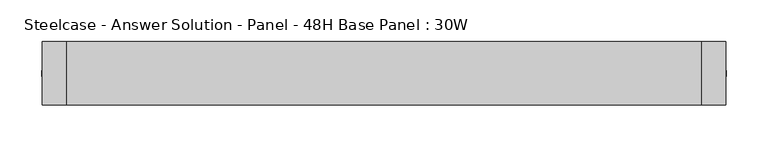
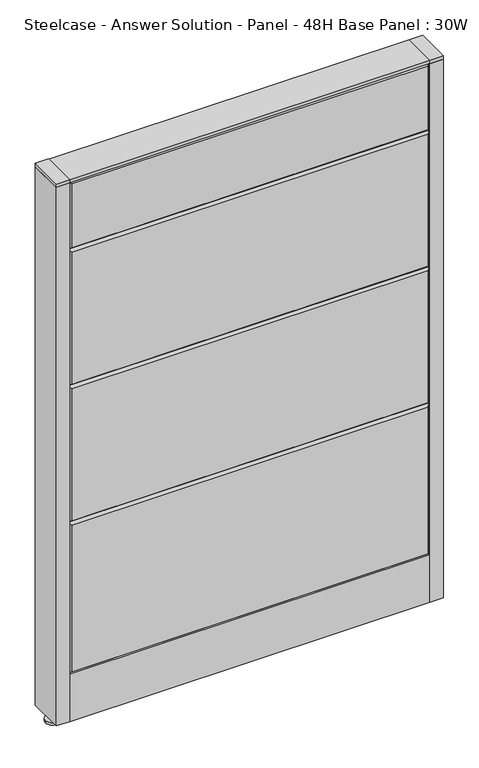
"""IFC4 building model written with IfcOpenShell, lengths in millimetres: furniture geometry, Steelcase - Answer Solution - Panel - 48H Base Panel : 30W."""

from ifc_helpers import new_model, si_unit, point, frame, frame_2d, origin, place, context, project, spatial, polyline, circle_curve, trimmed, segment, composite_curve, outline, extrude, faceted_brep, source, transform, mapped, element, save


def steelcase_answer_solution_panel_48h_base_panel_30w_5737a15c(model_context):
    return source(origin(), model_context, "Body", "SolidModel", [
        extrude(outline(composite_curve([segment(trimmed(circle_curve(frame_2d((395.224, 0.0320214)), 5.08), [point((400.304, 0.0320214))], [point((390.144, 0.0320214))], False, "CARTESIAN"), True, "CONTINUOUS"), segment(trimmed(circle_curve(frame_2d((395.224, 0.0320214)), 5.08), [point((390.144, 0.0320214))], [point((400.304, 0.0320214))], False, "CARTESIAN"), True, "CONTINUOUS")], self_intersect=False)), frame((0.0, 0.0, 5.0799671), z_axis=(0.0, 0.0, 1.0), x_axis=(1.0, 0.0, 0.0)), (0.0, 0.0, 1.0), 10.414),
        extrude(outline(composite_curve([segment(trimmed(circle_curve(frame_2d((395.224, 0.0320214)), 15.24), [point((410.464, 0.0320214))], [point((379.984, 0.0320214))], False, "CARTESIAN"), True, "CONTINUOUS"), segment(trimmed(circle_curve(frame_2d((395.224, 0.0320214)), 15.24), [point((379.984, 0.0320214))], [point((410.464, 0.0320214))], False, "CARTESIAN"), True, "CONTINUOUS")], self_intersect=False)), frame((0.0, 0.0, -3.29e-05), z_axis=(0.0, 0.0, 1.0), x_axis=(1.0, 0.0, 0.0)), (0.0, 0.0, 1.0), 5.08),
        extrude(outline(polyline([(409.575, 38.1320408), (409.575, -38.0679592), (381.0, -38.0679592), (381.0, 38.1320408), (409.575, 38.1320408)])), frame((0.0, 0.0, 1218.2348), z_axis=(0.0, 0.0, 1.0), x_axis=(1.0, 0.0, 0.0)), (0.0, 0.0, 1.0), 7.3151671),
        extrude(outline(polyline([(409.575, 38.1320408), (409.575, -38.0679592), (381.0, -38.0679592), (381.0, 38.1320408), (409.575, 38.1320408)])), frame((0.0, 0.0, 15.4939671), z_axis=(0.0, 0.0, 1.0), x_axis=(1.0, 0.0, 0.0)), (0.0, 0.0, 1.0), 1202.7408329),
        extrude(outline(composite_curve([segment(trimmed(circle_curve(frame_2d((-395.224, 0.0320214)), 5.08), [point((-400.304, 0.0320214))], [point((-390.144, 0.0320214))], False, "CARTESIAN"), True, "CONTINUOUS"), segment(trimmed(circle_curve(frame_2d((-395.224, 0.0320214)), 5.08), [point((-390.144, 0.0320214))], [point((-400.304, 0.0320214))], False, "CARTESIAN"), True, "CONTINUOUS")], self_intersect=False)), frame((0.0, 0.0, 5.0799671), z_axis=(0.0, 0.0, 1.0), x_axis=(1.0, 0.0, 0.0)), (0.0, 0.0, 1.0), 10.414),
        extrude(outline(composite_curve([segment(trimmed(circle_curve(frame_2d((-395.224, 0.0320214)), 15.24), [point((-410.464, 0.0320214))], [point((-379.984, 0.0320214))], False, "CARTESIAN"), True, "CONTINUOUS"), segment(trimmed(circle_curve(frame_2d((-395.224, 0.0320214)), 15.24), [point((-379.984, 0.0320214))], [point((-410.464, 0.0320214))], False, "CARTESIAN"), True, "CONTINUOUS")], self_intersect=False)), frame((0.0, 0.0, -3.29e-05), z_axis=(0.0, 0.0, 1.0), x_axis=(1.0, 0.0, 0.0)), (0.0, 0.0, 1.0), 5.08),
        extrude(outline(polyline([(-409.575, 38.1320408), (-381.0, 38.1320408), (-381.0, -38.0679592), (-409.575, -38.0679592), (-409.575, 38.1320408)])), frame((0.0, 0.0, 1218.2348), z_axis=(0.0, 0.0, 1.0), x_axis=(1.0, 0.0, 0.0)), (0.0, 0.0, 1.0), 7.3151671),
        extrude(outline(polyline([(-409.575, 38.1320408), (-381.0, 38.1320408), (-381.0, -38.0679592), (-409.575, -38.0679592), (-409.575, 38.1320408)])), frame((0.0, 0.0, 15.4939671), z_axis=(0.0, 0.0, 1.0), x_axis=(1.0, 0.0, 0.0)), (0.0, 0.0, 1.0), 1202.7408329),
        faceted_brep([(-376.174, 38.1635011, 1214.374), (376.174, 38.1635011, 1214.374), (376.174, 38.1635011, 1071.626), (-376.174, 38.1635011, 1071.626), (-381.0, 33.3375011, 1219.2), (-381.0, 33.3375011, 1066.8), (381.0, 33.3375011, 1066.8), (381.0, 33.3375011, 1219.2)], [[[0, 1, 2, 3]], [[4, 5, 6, 7]], [[4, 7, 1, 0]], [[7, 6, 2, 1]], [[6, 5, 3, 2]], [[5, 4, 0, 3]]]),
        faceted_brep([(-376.174, 38.1635011, 1061.974), (376.174, 38.1635011, 1061.974), (376.174, 38.1635011, 766.826), (-376.174, 38.1635011, 766.826), (-381.0, 33.3375011, 1066.8), (-381.0, 33.3375011, 762.0), (381.0, 33.3375011, 762.0), (381.0, 33.3375011, 1066.8)], [[[0, 1, 2, 3]], [[4, 5, 6, 7]], [[4, 7, 1, 0]], [[7, 6, 2, 1]], [[6, 5, 3, 2]], [[5, 4, 0, 3]]]),
        faceted_brep([(-376.174, 38.1635011, 757.174), (376.174, 38.1635011, 757.174), (376.174, 38.1635011, 462.026), (-376.174, 38.1635011, 462.026), (-381.0, 33.3375011, 762.0), (-381.0, 33.3375011, 457.2), (381.0, 33.3375011, 457.2), (381.0, 33.3375011, 762.0)], [[[0, 1, 2, 3]], [[4, 5, 6, 7]], [[4, 7, 1, 0]], [[7, 6, 2, 1]], [[6, 5, 3, 2]], [[5, 4, 0, 3]]]),
        faceted_brep([(-376.174, 38.1635011, 452.374), (376.174, 38.1635011, 452.374), (376.174, 38.1635011, 125.476), (-376.174, 38.1635011, 125.476), (-381.0, 33.3375011, 457.2), (-381.0, 33.3375011, 120.65), (381.0, 33.3375011, 120.65), (381.0, 33.3375011, 457.2)], [[[0, 1, 2, 3]], [[4, 5, 6, 7]], [[4, 7, 1, 0]], [[7, 6, 2, 1]], [[6, 5, 3, 2]], [[5, 4, 0, 3]]]),
        faceted_brep([(376.174, -38.1635011, 1214.374), (-376.174, -38.1635011, 1214.374), (-376.174, -38.1635011, 1071.626), (376.174, -38.1635011, 1071.626), (381.0, -33.3375011, 1219.2), (381.0, -33.3375011, 1066.8), (-381.0, -33.3375011, 1066.8), (-381.0, -33.3375011, 1219.2)], [[[0, 1, 2, 3]], [[4, 5, 6, 7]], [[4, 7, 1, 0]], [[7, 6, 2, 1]], [[6, 5, 3, 2]], [[5, 4, 0, 3]]]),
        faceted_brep([(376.174, -38.1635011, 1061.974), (-376.174, -38.1635011, 1061.974), (-376.174, -38.1635011, 766.826), (376.174, -38.1635011, 766.826), (381.0, -33.3375011, 1066.8), (381.0, -33.3375011, 762.0), (-381.0, -33.3375011, 762.0), (-381.0, -33.3375011, 1066.8)], [[[0, 1, 2, 3]], [[4, 5, 6, 7]], [[4, 7, 1, 0]], [[7, 6, 2, 1]], [[6, 5, 3, 2]], [[5, 4, 0, 3]]]),
        faceted_brep([(376.174, -38.1635011, 757.174), (-376.174, -38.1635011, 757.174), (-376.174, -38.1635011, 462.026), (376.174, -38.1635011, 462.026), (381.0, -33.3375011, 762.0), (381.0, -33.3375011, 457.2), (-381.0, -33.3375011, 457.2), (-381.0, -33.3375011, 762.0)], [[[0, 1, 2, 3]], [[4, 5, 6, 7]], [[4, 7, 1, 0]], [[7, 6, 2, 1]], [[6, 5, 3, 2]], [[5, 4, 0, 3]]]),
        faceted_brep([(376.174, -38.1635011, 452.374), (-376.174, -38.1635011, 452.374), (-376.174, -38.1635011, 125.476), (376.174, -38.1635011, 125.476), (381.0, -33.3375011, 457.2), (381.0, -33.3375011, 120.65), (-381.0, -33.3375011, 120.65), (-381.0, -33.3375011, 457.2)], [[[0, 1, 2, 3]], [[4, 5, 6, 7]], [[4, 7, 1, 0]], [[7, 6, 2, 1]], [[6, 5, 3, 2]], [[5, 4, 0, 3]]]),
        extrude(outline(polyline([(381.0, 38.1000194), (381.0, -38.1000194), (-381.0, -38.1000194), (-381.0, 38.1000194), (381.0, 38.1000194)])), frame((0.0, 0.0, 1219.2), z_axis=(0.0, 0.0, 1.0), x_axis=(1.0, 0.0, 0.0)), (0.0, 0.0, 1.0), 6.35),
        extrude(outline(polyline([(25.4000011, 119.8575157), (25.4000011, 120.65), (38.1000194, 120.65), (38.1000194, 15.494), (37.3075215, 15.494), (37.3075215, 119.8575157), (25.4000011, 119.8575157)])), frame((-381.0, 0.0, 0.0), z_axis=(1.0, 0.0, 0.0), x_axis=(0.0, 1.0, 0.0)), (0.0, 0.0, 1.0), 762.0),
        extrude(outline(polyline([(-25.4000011, 119.8575157), (-37.3075215, 119.8575157), (-37.3075215, 15.494), (-38.1000194, 15.494), (-38.1000194, 120.65), (-25.4000011, 120.65), (-25.4000011, 119.8575157)])), frame((-381.0, 0.0, 0.0), z_axis=(1.0, 0.0, 0.0), x_axis=(0.0, 1.0, 0.0)), (0.0, 0.0, 1.0), 762.0),
    ])


if __name__ == "__main__":
    model = new_model("IFC4")
    model_context = context("Model", 3, world=origin())
    ifc_project = project(units=[si_unit("LENGTHUNIT", "METRE", prefix="MILLI")], contexts=[model_context])
    site = spatial("IfcSite", under=ifc_project)
    building = spatial("IfcBuilding", under=site)
    placement = place(None, origin())
    steelcase_answer_solution_panel_48h_base_panel_30w_shape = steelcase_answer_solution_panel_48h_base_panel_30w_5737a15c(model_context)
    element("IfcFurniture", 1, ObjectType="Steelcase - Answer Solution - Panel - 48H Base Panel : 30W", at=placement, inside=building, context=model_context, shape_type="MappedRepresentation", body=[
        mapped(steelcase_answer_solution_panel_48h_base_panel_30w_shape, transform((0.0, 0.0, 0.0), x_axis=(1.0, 0.0, 0.0), y_axis=(0.0, 1.0, 0.0), z_axis=(0.0, 0.0, 1.0))),
    ])
    save(model, "model.ifc")
